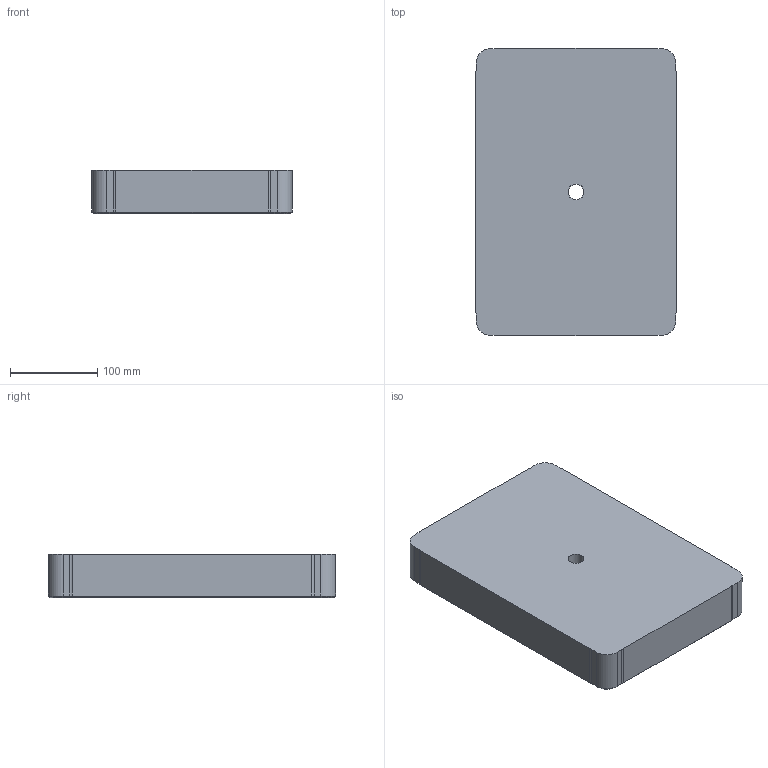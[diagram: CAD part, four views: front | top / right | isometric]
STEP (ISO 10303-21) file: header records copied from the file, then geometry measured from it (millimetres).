
FILE_DESCRIPTION (( 'STEP AP214' ), '1' );
FILE_NAME ('DS-Formeinsatz 230_330_50.STEP', '2024-02-29T10:01:01', ( '' ), ( '' ), 'SwSTEP 2.0', 'SolidWorks 2020', '' );
FILE_SCHEMA (( 'AUTOMOTIVE_DESIGN' ));
Length unit declared in the file: millimetre
Products named in the file (1): DS-Formeinsatz 230_330_50
Bounding box: 230 x 330 x 50 mm (x, y, z)
Volume: 3756169.6 mm3; surface area: 210018 mm2
Topology: 1 solids, 1 shells, 72 faces, 172 edges, 102 vertices
Faces by surface type: plane 26, cone 26, cylinder 20
Full cylindrical faces by diameter (mm): 8.5 x6, 18 x1, 18.5 x1
Entity records: 1924 total; most frequent: DIRECTION 340, CARTESIAN_POINT 335, ORIENTED_EDGE 286, EDGE_CURVE 143, AXIS2_PLACEMENT_3D 132, EDGE_LOOP 96, VERTEX_POINT 95, FACE_OUTER_BOUND 80
